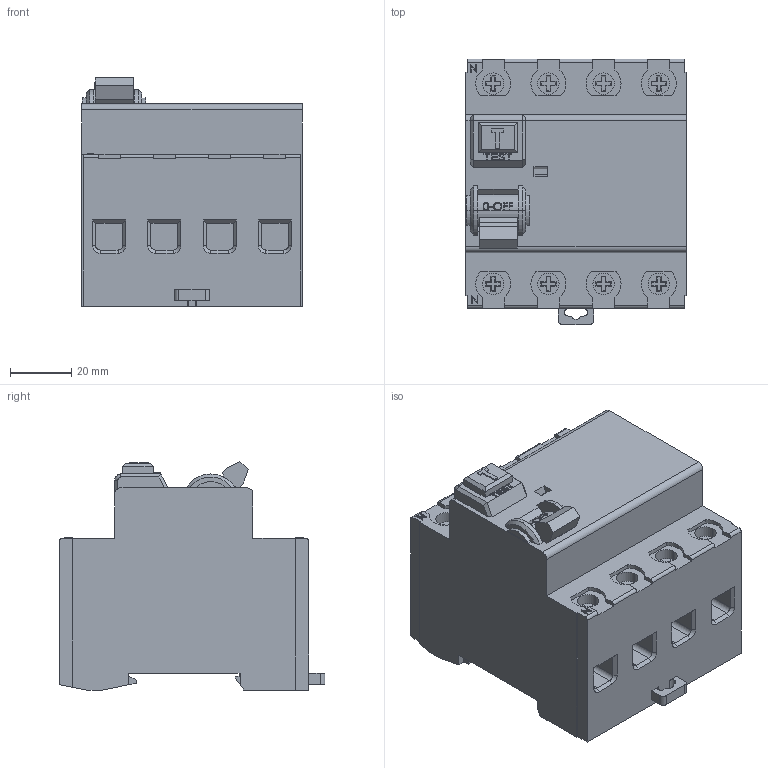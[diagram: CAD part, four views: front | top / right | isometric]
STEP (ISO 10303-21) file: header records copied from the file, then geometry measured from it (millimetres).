
FILE_DESCRIPTION (( 'STEP AP203' ), '1' );
FILE_NAME ('DRB100-430.STEP', '2018-05-11T12:48:26', ( '' ), ( '' ), 'SwSTEP 2.0', 'SolidWorks 2012', '' );
FILE_SCHEMA (( 'CONFIG_CONTROL_DESIGN' ));
Length unit declared in the file: millimetre
Products named in the file (1): DRB100-430
Bounding box: 72 x 86.6 x 74.45 mm (x, y, z)
Volume: 317633.7 mm3; surface area: 37530.6 mm2
Topology: 2 solids, 2 shells, 561 faces, 1495 edges, 977 vertices
Faces by surface type: plane 413, cylinder 95, bspline 32, cone 21
Entity records: 21004 total; most frequent: CARTESIAN_POINT 7033, ORIENTED_EDGE 2990, DIRECTION 2677, EDGE_CURVE 1495, LINE 1183, VECTOR 1183, VERTEX_POINT 977, AXIS2_PLACEMENT_3D 747
